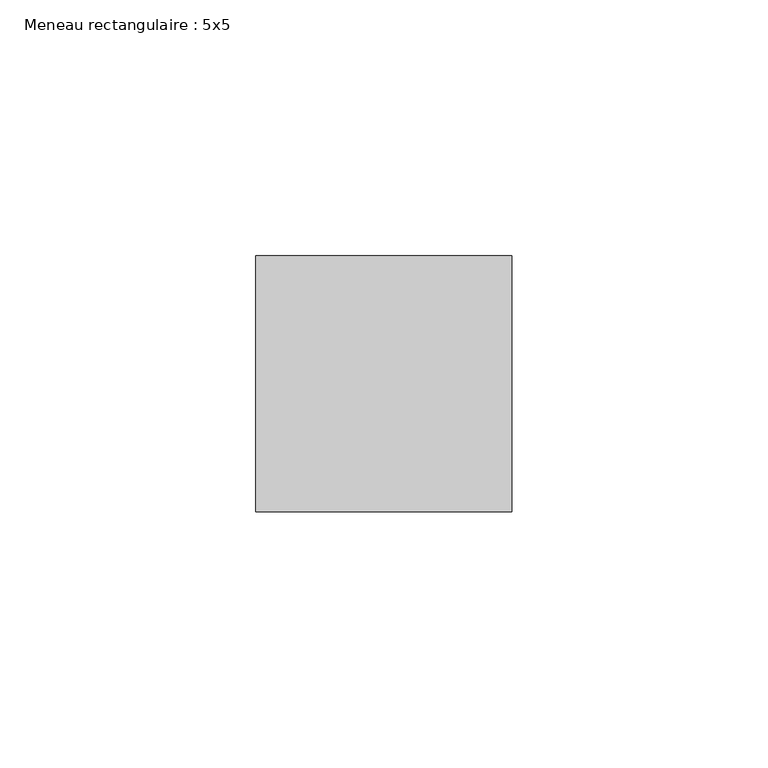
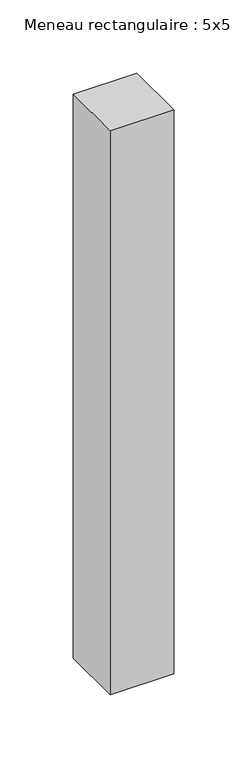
"""IFC4 building model written with IfcOpenShell, lengths in millimetres: member geometry, Meneau rectangulaire : 5x5."""

import ifcopenshell
import ifcopenshell.guid

model = None  # the IFC model being written
_history = None  # IfcOwnerHistory: only IFC2X3 demands one
_inside = {}  # id of a spatial element -> (the spatial element, [elements in it])
_under = {}  # id of a project, library or spatial element -> (it, [spatial elements below it])
_declared = {}  # id of a project -> (the project, [libraries it declares])
_typed = {}  # id of a type object -> (the type object, [elements of that type])
_made_of = {}  # id of a material, layer set ... -> (it, [elements and type objects made of it])


def new_model(schema):
    """Start an empty IFC model of exactly this schema.

    Asked for "IFC4X3", IfcOpenShell would pick the latest addendum, in which some entities
    have other attributes; the version numbers below select the first issue.
    IFC2X3 requires an IfcOwnerHistory on every rooted entity: one is made here for all.
    """
    global model, _history
    if schema == "IFC4X3":
        model = ifcopenshell.file(schema_version=(4, 3, 0, 0))
    else:
        model = ifcopenshell.file(schema=schema)
    _inside.clear()
    _under.clear()
    _declared.clear()
    _typed.clear()
    _made_of.clear()
    _history = None
    if model.schema == "IFC2X3":
        org = make("IfcOrganization", Name="unknown")
        user = make(
            "IfcPersonAndOrganization",
            ThePerson=make("IfcPerson", FamilyName="unknown"),
            TheOrganization=org,
        )
        app = make(
            "IfcApplication",
            ApplicationDeveloper=org,
            Version="unknown",
            ApplicationFullName="unknown",
            ApplicationIdentifier="unknown",
        )
        _history = make(
            "IfcOwnerHistory",
            OwningUser=user,
            OwningApplication=app,
            ChangeAction="ADDED",
            CreationDate=0,
        )
    return model


def make(cls, **values):
    """One entity of the class cls with the attributes given. An attribute that is None is left unset."""
    return model.create_entity(
        cls, **{name: value for name, value in values.items() if value is not None}
    )


def rooted(cls, **values):
    """An entity with a GlobalId (a new one), such as an element, a storey or a relation."""
    return make(cls, GlobalId=ifcopenshell.guid.new(), OwnerHistory=_history, **values)


def si_unit(unit_type, name, prefix=None):
    """IfcSIUnit, for example si_unit("LENGTHUNIT", "METRE", prefix="MILLI")."""
    return make("IfcSIUnit", UnitType=unit_type, Prefix=prefix, Name=name)


def assignment(units):
    """IfcUnitAssignment: the units of a project."""
    return None if units is None else make("IfcUnitAssignment", Units=units)


def point(xyz):
    """IfcCartesianPoint."""
    return None if xyz is None else make("IfcCartesianPoint", Coordinates=xyz)


def direction(xyz):
    """IfcDirection."""
    return None if xyz is None else make("IfcDirection", DirectionRatios=xyz)


def frame(location, z_axis=None, x_axis=None):
    """IfcAxis2Placement3D, a coordinate frame: its origin and axes. An axis left out is left unset."""
    return make(
        "IfcAxis2Placement3D",
        Location=point(location),
        Axis=direction(z_axis),
        RefDirection=direction(x_axis),
    )


def origin():
    """The frame at (0, 0, 0) with its axes left unset."""
    return frame((0.0, 0.0, 0.0))


def place(relative_to, where):
    """IfcLocalPlacement: puts the frame where relative to a parent placement (None: the world)."""
    return make(
        "IfcLocalPlacement", PlacementRelTo=relative_to, RelativePlacement=where
    )


def context(
    kind, dimensions, precision=None, world=None, true_north=None, identifier=None
):
    """IfcGeometricRepresentationContext, for example the 3D "Model" context."""
    return make(
        "IfcGeometricRepresentationContext",
        ContextIdentifier=identifier,
        ContextType=kind,
        CoordinateSpaceDimension=dimensions,
        Precision=precision,
        WorldCoordinateSystem=world,
        TrueNorth=true_north,
    )


def project(units=None, contexts=None):
    """IfcProject with its units and contexts."""
    return rooted(
        "IfcProject",
        Name="project",
        RepresentationContexts=contexts,
        UnitsInContext=assignment(units),
    )


def spatial(cls, under=None, at=None, **own):
    """A site, building, storey or space (cls), placed at a placement, below another one or the project."""
    s = rooted(cls, ObjectPlacement=at, **own)
    if under is not None:
        _under.setdefault(under.id(), (under, []))[1].append(s)
    return s


def polyline(points):
    """IfcPolyline through the points."""
    return make("IfcPolyline", Points=[point(p) for p in points])


def outline(outer, holes=None, kind="AREA"):
    """IfcArbitraryClosedProfileDef: a profile drawn as a closed curve; with holes, ...WithVoids."""
    if holes is None:
        return make("IfcArbitraryClosedProfileDef", ProfileType=kind, OuterCurve=outer)
    return make(
        "IfcArbitraryProfileDefWithVoids",
        ProfileType=kind,
        OuterCurve=outer,
        InnerCurves=holes,
    )


def extrude(swept, where, along, depth):
    """IfcExtrudedAreaSolid: the profile swept, set in the frame where, extruded along a direction by depth."""
    return make(
        "IfcExtrudedAreaSolid",
        SweptArea=swept,
        Position=where,
        ExtrudedDirection=direction(along),
        Depth=depth,
    )


def shape(context_of_items, identifier, shape_type, items):
    """IfcShapeRepresentation: the items that make up one representation, for example the "Body"."""
    return make(
        "IfcShapeRepresentation",
        ContextOfItems=context_of_items,
        RepresentationIdentifier=identifier,
        RepresentationType=shape_type,
        Items=items,
    )


def source(mapping_origin, context_of_items, identifier, shape_type, items):
    """IfcRepresentationMap: a shape defined once, which mapped items show again and again."""
    return make(
        "IfcRepresentationMap",
        MappingOrigin=mapping_origin,
        MappedRepresentation=shape(context_of_items, identifier, shape_type, items),
    )


def transform(
    local_origin,
    x_axis=None,
    y_axis=None,
    z_axis=None,
    scale=None,
    scale2=None,
    scale3=None,
    uniform=True,
):
    """IfcCartesianTransformationOperator3D, or its non-uniform kind. x_axis, y_axis, z_axis: its Axis1, 2, 3."""
    if uniform:
        return make(
            "IfcCartesianTransformationOperator3D",
            Axis1=direction(x_axis),
            Axis2=direction(y_axis),
            LocalOrigin=point(local_origin),
            Scale=scale,
            Axis3=direction(z_axis),
        )
    return make(
        "IfcCartesianTransformationOperator3DnonUniform",
        Axis1=direction(x_axis),
        Axis2=direction(y_axis),
        LocalOrigin=point(local_origin),
        Scale=scale,
        Axis3=direction(z_axis),
        Scale2=scale2,
        Scale3=scale3,
    )


def mapped(mapping_source, mapping_target):
    """IfcMappedItem: shows the shape of a source again, moved by a transform."""
    return make(
        "IfcMappedItem", MappingSource=mapping_source, MappingTarget=mapping_target
    )


def made_of(thing, what):
    """Note that an element or type object is made of a material, layer set ...; save() writes the relation."""
    if what is not None:
        _made_of.setdefault(what.id(), (what, []))[1].append(thing)
    return thing


def element(
    cls,
    number,
    at=None,
    inside=None,
    cuts=None,
    type_object=None,
    material=None,
    context=None,
    identifier="Body",
    shape_type=None,
    held_by="IfcProductDefinitionShape",
    body=None,
    shapes=None,
    **own,
):
    """One element of the class cls, such as IfcWall. Its Tag is "e" and its number.

    at: its placement. inside: the storey or other place that contains it. cuts: it is an
    opening in that element (IfcRelVoidsElement). A single representation is given by context,
    identifier, shape_type and body (its items); several are given by shapes. held_by: the class
    of the entity that holds the representations. save() writes the other relations.
    """
    e = rooted(cls, Tag="e%d" % number, ObjectPlacement=at, **own)
    if body is not None:
        shapes = [shape(context, identifier, shape_type, body)]
    if shapes is not None:
        e.Representation = make(held_by, Representations=shapes)
    if inside is not None:
        _inside.setdefault(inside.id(), (inside, []))[1].append(e)
    if cuts is not None:
        rooted(
            "IfcRelVoidsElement", RelatingBuildingElement=cuts, RelatedOpeningElement=e
        )
    if type_object is not None:
        _typed.setdefault(type_object.id(), (type_object, []))[1].append(e)
    return made_of(e, material)


def aggregate(whole, parts):
    """IfcRelAggregates: a whole, such as a stair, and the parts it consists of."""
    return rooted("IfcRelAggregates", RelatingObject=whole, RelatedObjects=parts)


def save(model, path):
    """Write the relations noted so far, then the file.

    IfcRelAggregates (storeys below a building ...), IfcRelContainedInSpatialStructure (elements
    in a storey), IfcRelDefinesByType, IfcRelAssociatesMaterial and IfcRelDeclares: one each for
    every whole, place, type object, material and project.
    """
    for whole, parts in _under.values():
        aggregate(whole, parts)
    for where, things in _inside.values():
        rooted(
            "IfcRelContainedInSpatialStructure",
            RelatedElements=things,
            RelatingStructure=where,
        )
    for kind, things in _typed.values():
        rooted("IfcRelDefinesByType", RelatedObjects=things, RelatingType=kind)
    for what, things in _made_of.values():
        rooted("IfcRelAssociatesMaterial", RelatedObjects=things, RelatingMaterial=what)
    for by, libraries in _declared.values():
        rooted("IfcRelDeclares", RelatingContext=by, RelatedDefinitions=libraries)
    model.write(path)


def meneau_rectangulaire_5x5_c1a7117d(model_context):
    return source(origin(), model_context, "Body", "SweptSolid", [
        extrude(outline(polyline([(0.0, 25.0), (0.0, -25.0), (-50.0, -25.0), (-50.0, 25.0), (0.0, 25.0)])), frame((0.0, 0.0, -469.0791167), z_axis=(0.0, 0.0, 1.0), x_axis=(1.0, 0.0, 0.0)), (0.0, 0.0, 1.0), 469.0791167),
    ])


if __name__ == "__main__":
    model = new_model("IFC4")
    model_context = context("Model", 3, world=origin())
    ifc_project = project(units=[si_unit("LENGTHUNIT", "METRE", prefix="MILLI")], contexts=[model_context])
    site = spatial("IfcSite", under=ifc_project)
    building = spatial("IfcBuilding", under=site)
    placement = place(None, origin())
    meneau_rectangulaire_5x5_shape = meneau_rectangulaire_5x5_c1a7117d(model_context)
    element("IfcMember", 1, ObjectType="Meneau rectangulaire : 5x5", at=placement, inside=building, context=model_context, shape_type="MappedRepresentation", body=[
        mapped(meneau_rectangulaire_5x5_shape, transform((0.0, 0.0, 0.0), x_axis=(1.0, 0.0, 0.0), y_axis=(0.0, 1.0, 0.0), z_axis=(0.0, 0.0, 1.0))),
    ])
    save(model, "model.ifc")
